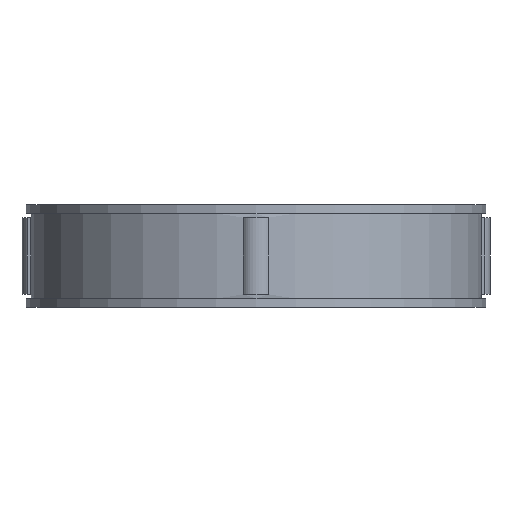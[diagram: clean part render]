
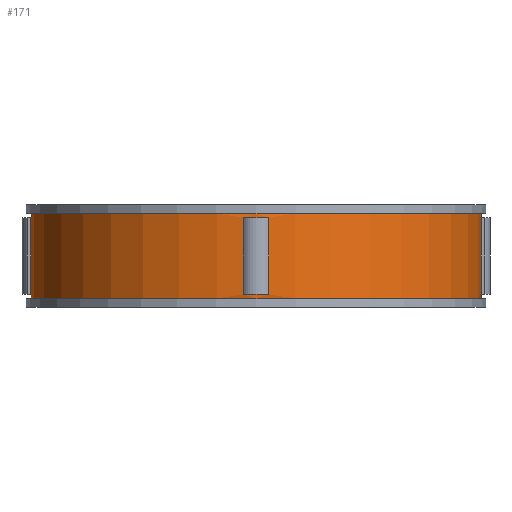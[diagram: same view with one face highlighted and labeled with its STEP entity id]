
A CAD part, front view. The second image highlights one B-rep face of the part: STEP entity #171.
In plain terms, the highlighted cylindrical face has radius 26.5 mm (diameter 53 mm), a full revolution.
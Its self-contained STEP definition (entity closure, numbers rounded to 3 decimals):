
#171=ADVANCED_FACE('',(#359,#360,#361,#362,#363,#364),#219,.T.);
#219=CYLINDRICAL_SURFACE('',#882,26.5);
#231=LINE('',#1207,#295);
#232=LINE('',#1212,#296);
#233=LINE('',#1215,#297);
#234=LINE('',#1220,#298);
#235=LINE('',#1223,#299);
#236=LINE('',#1228,#300);
#237=LINE('',#1234,#301);
#238=LINE('',#1238,#302);
#295=VECTOR('',#966,1.);
#296=VECTOR('',#969,1.);
#297=VECTOR('',#972,1.);
#298=VECTOR('',#975,1.);
#299=VECTOR('',#978,1.);
#300=VECTOR('',#981,1.);
#301=VECTOR('',#986,1.);
#302=VECTOR('',#989,1.);
#359=FACE_BOUND('',#383,.T.);
#360=FACE_BOUND('',#384,.T.);
#361=FACE_BOUND('',#385,.T.);
#362=FACE_BOUND('',#386,.T.);
#363=FACE_BOUND('',#387,.T.);
#364=FACE_BOUND('',#388,.T.);
#383=EDGE_LOOP('',(#447));
#384=EDGE_LOOP('',(#448));
#385=EDGE_LOOP('',(#449,#450,#451,#452));
#386=EDGE_LOOP('',(#453,#454,#455,#456));
#387=EDGE_LOOP('',(#457,#458,#459,#460));
#388=EDGE_LOOP('',(#461,#462,#463,#464));
#447=ORIENTED_EDGE('',*,*,#727,.F.);
#448=ORIENTED_EDGE('',*,*,#728,.T.);
#449=ORIENTED_EDGE('',*,*,#729,.F.);
#450=ORIENTED_EDGE('',*,*,#730,.T.);
#451=ORIENTED_EDGE('',*,*,#731,.F.);
#452=ORIENTED_EDGE('',*,*,#732,.F.);
#453=ORIENTED_EDGE('',*,*,#733,.F.);
#454=ORIENTED_EDGE('',*,*,#734,.T.);
#455=ORIENTED_EDGE('',*,*,#735,.F.);
#456=ORIENTED_EDGE('',*,*,#736,.F.);
#457=ORIENTED_EDGE('',*,*,#737,.F.);
#458=ORIENTED_EDGE('',*,*,#738,.T.);
#459=ORIENTED_EDGE('',*,*,#739,.F.);
#460=ORIENTED_EDGE('',*,*,#740,.F.);
#461=ORIENTED_EDGE('',*,*,#741,.F.);
#462=ORIENTED_EDGE('',*,*,#742,.T.);
#463=ORIENTED_EDGE('',*,*,#743,.T.);
#464=ORIENTED_EDGE('',*,*,#744,.T.);
#655=VERTEX_POINT('',#1204);
#656=VERTEX_POINT('',#1206);
#657=VERTEX_POINT('',#1208);
#658=VERTEX_POINT('',#1209);
#659=VERTEX_POINT('',#1211);
#660=VERTEX_POINT('',#1213);
#661=VERTEX_POINT('',#1216);
#662=VERTEX_POINT('',#1217);
#663=VERTEX_POINT('',#1219);
#664=VERTEX_POINT('',#1221);
#665=VERTEX_POINT('',#1224);
#666=VERTEX_POINT('',#1225);
#667=VERTEX_POINT('',#1227);
#668=VERTEX_POINT('',#1229);
#669=VERTEX_POINT('',#1232);
#670=VERTEX_POINT('',#1233);
#671=VERTEX_POINT('',#1235);
#672=VERTEX_POINT('',#1237);
#727=EDGE_CURVE('',#655,#655,#831,.T.);
#728=EDGE_CURVE('',#656,#656,#832,.T.);
#729=EDGE_CURVE('',#657,#658,#231,.T.);
#730=EDGE_CURVE('',#657,#659,#833,.T.);
#731=EDGE_CURVE('',#660,#659,#232,.T.);
#732=EDGE_CURVE('',#658,#660,#834,.T.);
#733=EDGE_CURVE('',#661,#662,#233,.T.);
#734=EDGE_CURVE('',#661,#663,#835,.T.);
#735=EDGE_CURVE('',#664,#663,#234,.T.);
#736=EDGE_CURVE('',#662,#664,#836,.T.);
#737=EDGE_CURVE('',#665,#666,#235,.T.);
#738=EDGE_CURVE('',#665,#667,#837,.T.);
#739=EDGE_CURVE('',#668,#667,#236,.T.);
#740=EDGE_CURVE('',#666,#668,#838,.T.);
#741=EDGE_CURVE('',#669,#670,#839,.T.);
#742=EDGE_CURVE('',#669,#671,#237,.T.);
#743=EDGE_CURVE('',#671,#672,#840,.T.);
#744=EDGE_CURVE('',#672,#670,#238,.T.);
#831=CIRCLE('',#872,26.5);
#832=CIRCLE('',#873,26.5);
#833=CIRCLE('',#874,26.5);
#834=CIRCLE('',#875,26.5);
#835=CIRCLE('',#876,26.5);
#836=CIRCLE('',#877,26.5);
#837=CIRCLE('',#878,26.5);
#838=CIRCLE('',#879,26.5);
#839=CIRCLE('',#880,26.5);
#840=CIRCLE('',#881,26.5);
#872=AXIS2_PLACEMENT_3D('',#1203,#962,#963);
#873=AXIS2_PLACEMENT_3D('',#1205,#964,#965);
#874=AXIS2_PLACEMENT_3D('',#1210,#967,#968);
#875=AXIS2_PLACEMENT_3D('',#1214,#970,#971);
#876=AXIS2_PLACEMENT_3D('',#1218,#973,#974);
#877=AXIS2_PLACEMENT_3D('',#1222,#976,#977);
#878=AXIS2_PLACEMENT_3D('',#1226,#979,#980);
#879=AXIS2_PLACEMENT_3D('',#1230,#982,#983);
#880=AXIS2_PLACEMENT_3D('',#1231,#984,#985);
#881=AXIS2_PLACEMENT_3D('',#1236,#987,#988);
#882=AXIS2_PLACEMENT_3D('',#1239,#990,#991);
#962=DIRECTION('',(0.,0.,1.));
#963=DIRECTION('',(1.,0.,0.));
#964=DIRECTION('',(0.,0.,1.));
#965=DIRECTION('',(1.,0.,0.));
#966=DIRECTION('',(0.,0.,-1.));
#967=DIRECTION('',(0.,0.,1.));
#968=DIRECTION('',(1.,0.,0.));
#969=DIRECTION('',(0.,0.,1.));
#970=DIRECTION('',(0.,0.,1.));
#971=DIRECTION('',(1.,0.,0.));
#972=DIRECTION('',(0.,0.,-1.));
#973=DIRECTION('',(0.,0.,1.));
#974=DIRECTION('',(1.,0.,0.));
#975=DIRECTION('',(0.,0.,1.));
#976=DIRECTION('',(0.,0.,1.));
#977=DIRECTION('',(1.,0.,0.));
#978=DIRECTION('',(0.,0.,-1.));
#979=DIRECTION('',(0.,0.,1.));
#980=DIRECTION('',(1.,0.,0.));
#981=DIRECTION('',(0.,0.,1.));
#982=DIRECTION('',(0.,0.,1.));
#983=DIRECTION('',(1.,0.,0.));
#984=DIRECTION('',(0.,0.,-1.));
#985=DIRECTION('',(-1.,0.,0.));
#986=DIRECTION('',(0.,0.,-1.));
#987=DIRECTION('',(0.,0.,-1.));
#988=DIRECTION('',(-1.,0.,0.));
#989=DIRECTION('',(0.,0.,1.));
#990=DIRECTION('',(0.,0.,-1.));
#991=DIRECTION('',(-1.,0.,0.));
#1203=CARTESIAN_POINT('',(0.,0.,11.));
#1204=CARTESIAN_POINT('',(26.5,0.,11.));
#1205=CARTESIAN_POINT('',(0.,0.,1.));
#1206=CARTESIAN_POINT('',(26.5,0.,1.));
#1207=CARTESIAN_POINT('',(26.459,-1.471,12.));
#1208=CARTESIAN_POINT('',(26.459,-1.471,10.5));
#1209=CARTESIAN_POINT('',(26.459,-1.471,1.5));
#1210=CARTESIAN_POINT('',(0.,0.,10.5));
#1211=CARTESIAN_POINT('',(26.459,1.471,10.5));
#1212=CARTESIAN_POINT('',(26.459,1.471,12.));
#1213=CARTESIAN_POINT('',(26.459,1.471,1.5));
#1214=CARTESIAN_POINT('',(0.,0.,1.5));
#1215=CARTESIAN_POINT('',(1.471,26.459,12.));
#1216=CARTESIAN_POINT('',(1.471,26.459,10.5));
#1217=CARTESIAN_POINT('',(1.471,26.459,1.5));
#1218=CARTESIAN_POINT('',(0.,0.,10.5));
#1219=CARTESIAN_POINT('',(-1.471,26.459,10.5));
#1220=CARTESIAN_POINT('',(-1.471,26.459,12.));
#1221=CARTESIAN_POINT('',(-1.471,26.459,1.5));
#1222=CARTESIAN_POINT('',(0.,0.,1.5));
#1223=CARTESIAN_POINT('',(-26.459,1.471,12.));
#1224=CARTESIAN_POINT('',(-26.459,1.471,10.5));
#1225=CARTESIAN_POINT('',(-26.459,1.471,1.5));
#1226=CARTESIAN_POINT('',(0.,0.,10.5));
#1227=CARTESIAN_POINT('',(-26.459,-1.471,10.5));
#1228=CARTESIAN_POINT('',(-26.459,-1.471,12.));
#1229=CARTESIAN_POINT('',(-26.459,-1.471,1.5));
#1230=CARTESIAN_POINT('',(0.,0.,1.5));
#1231=CARTESIAN_POINT('',(0.,0.,10.5));
#1232=CARTESIAN_POINT('',(1.471,-26.459,10.5));
#1233=CARTESIAN_POINT('',(-1.471,-26.459,10.5));
#1234=CARTESIAN_POINT('',(1.471,-26.459,12.));
#1235=CARTESIAN_POINT('',(1.471,-26.459,1.5));
#1236=CARTESIAN_POINT('',(0.,0.,1.5));
#1237=CARTESIAN_POINT('',(-1.471,-26.459,1.5));
#1238=CARTESIAN_POINT('',(-1.471,-26.459,12.));
#1239=CARTESIAN_POINT('',(0.,0.,12.));
